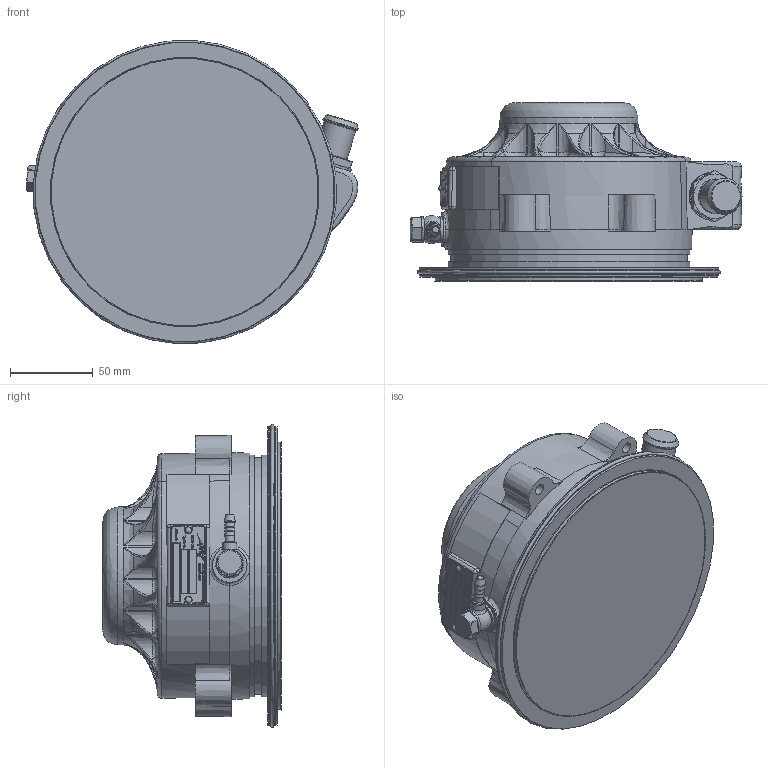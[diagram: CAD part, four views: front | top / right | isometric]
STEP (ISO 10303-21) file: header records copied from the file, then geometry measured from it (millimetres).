
FILE_DESCRIPTION((''),'2;1');
FILE_NAME('W:\P_Projekte\Vorlagen\Datensatz Kompressor\Step Datensätze\P300-00-36_Kompressor_ASA_T1-313_Getriebe.stp','2009-11-30T10:43:31',('johannes.strobel'),(''),'Autodesk Inventor 11','Autodesk Inventor 11','');
FILE_SCHEMA(('AUTOMOTIVE_DESIGN { 1 0 10303 214 1 1 1 1 }'));
Length unit declared in the file: millimetre
Products named in the file (1): P300-00-36_Kompressor_ASA_T1-313_Getriebe
Bounding box: 201.13 x 108.3 x 183.63 mm (x, y, z)
Volume: 1633080.8 mm3; surface area: 121155.5 mm2
Topology: 2 solids, 2 shells, 1440 faces, 3815 edges, 2469 vertices
Faces by surface type: plane 709, bspline 602, cylinder 78, cone 29, torus 15, sphere 7
Full cylindrical faces by diameter (mm): 0.2 x1, 1 x2, 5.7 x1, 8.5 x1, 16 x2, 20 x1, 20.8 x1, 21 x1, 22 x1, 29 x1, 30 x1, 40.432 x1, 50 x1, 53.43 x1, 62 x1, 62.1 x1, 65 x1, 144 x1, 147 x2, 162.5 x1, 179 x1, 182 x2
Entity records: 83495 total; most frequent: CARTESIAN_POINT 52542, ORIENTED_EDGE 7376, DIRECTION 4426, EDGE_CURVE 3688, VERTEX_POINT 2442, VECTOR 1982, LINE 1982, EDGE_LOOP 1642
